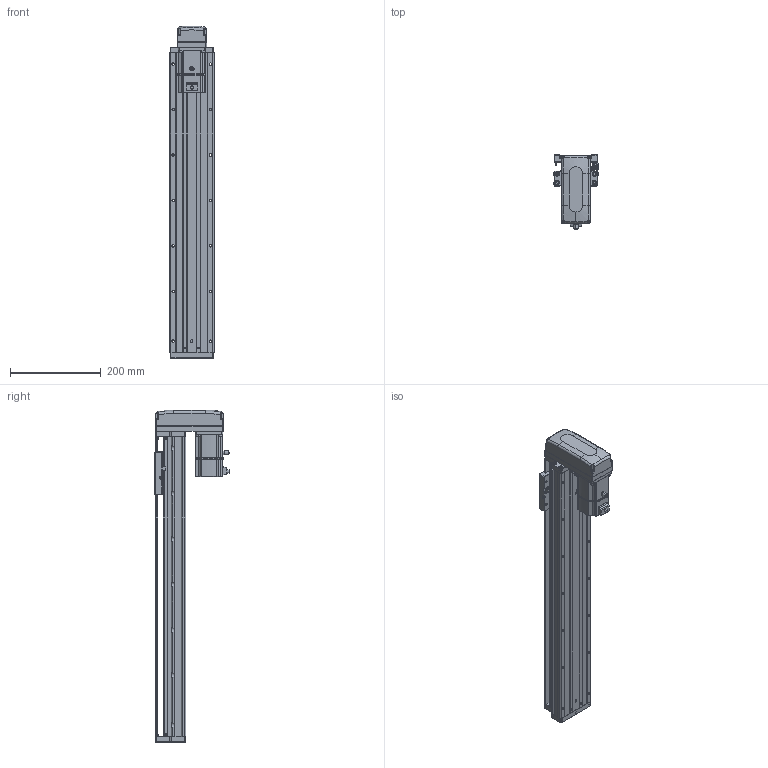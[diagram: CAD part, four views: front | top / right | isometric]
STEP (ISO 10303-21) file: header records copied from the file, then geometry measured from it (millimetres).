
FILE_DESCRIPTION (( 'STEP AP203' ), '1' );
FILE_NAME ('KTHA100-500-BM-M20-C4L.step', '2022-04-26T01:53:28', ( '微软用户' ), ( '微软中国' ), 'SwSTEP 2.0', 'SolidWorks 2020', '' );
FILE_SCHEMA (( 'CONFIG_CONTROL_DESIGN' ));
Length unit declared in the file: millimetre
Products named in the file (17): CTHA86-015-1_CTHA86-015-2; KTHA100-002; GBT77-2000 M3×3; CTHA86-033; KTHA100-004; GBT 70.1-M3℅6; KTHA100-500-BM-M20-C4L; KTHA100-005; GBT70.1 M5℅16; GB¨uT 70.2-M3¡Á5_M3¡Á6; CTHA60-016; EE_SX911P_R; GBT 70.3-M3℅6; CTHA60-017; _X2_4E0983F1_X0_200W_1; KTHA100-001_660; CTHA60-021
Assembly tree (57 placements, depth 2):
  KTHA100-500-BM-M20-C4L
    KTHA100-001_660
    KTHA100-002
    KTHA100-004
    KTHA100-005
    GB¨uT 70.2-M3¡Á5_M3¡Á6  x6
    EE_SX911P_R  x3
    CTHA60-017  x3
    CTHA60-021  x2
    GBT77-2000 M3×3  x6
    GBT 70.1-M3℅6  x10
    GBT70.1 M5℅16  x14
    CTHA60-016  x2
    GBT 70.3-M3℅6  x4
    _X2_4E0983F1_X0_200W_1
    CTHA86-015-1_CTHA86-015-2
    CTHA86-033
Bounding box: 98.82 x 163.2 x 731 mm (x, y, z)
Volume: 3337848.4 mm3; surface area: 547444.6 mm2
Topology: 60 solids, 60 shells, 2417 faces, 5777 edges, 3580 vertices
Faces by surface type: plane 1232, cylinder 671, cone 307, torus 116, bspline 75, sphere 16
Entity records: 41302 total; most frequent: CARTESIAN_POINT 8336, DIRECTION 6382, ORIENTED_EDGE 6166, EDGE_CURVE 3083, AXIS2_PLACEMENT_3D 2234, VERTEX_POINT 1940, VECTOR 1914, LINE 1914
